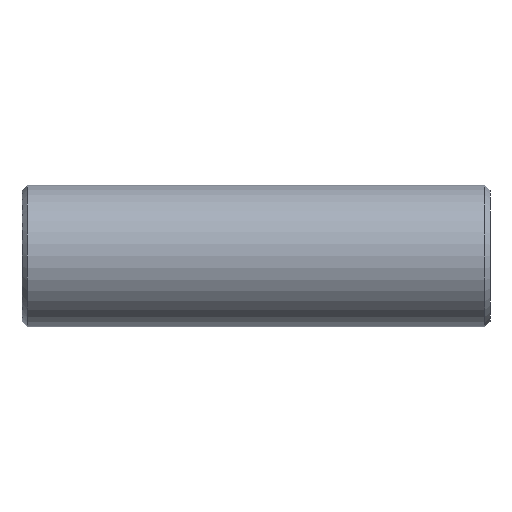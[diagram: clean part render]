
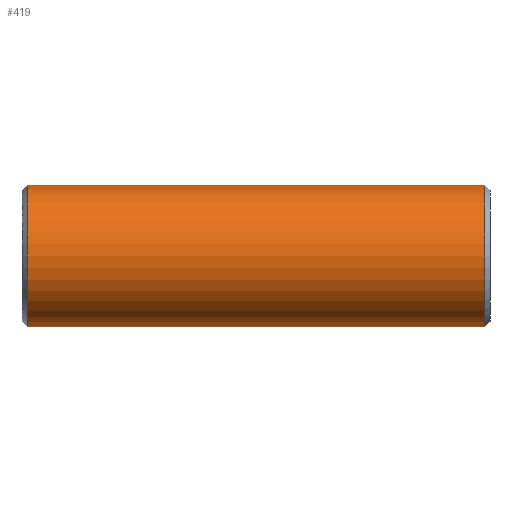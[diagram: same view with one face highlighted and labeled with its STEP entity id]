
A CAD part, front view. The second image highlights one B-rep face of the part: STEP entity #419.
In plain terms, the highlighted cylindrical face has radius 13 mm (diameter 26 mm), a partial arc.
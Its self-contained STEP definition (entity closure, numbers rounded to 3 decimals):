
#231=CARTESIAN_POINT('Vertex',(1.,0.,-13.)) ;
#238=CARTESIAN_POINT('Vertex',(1.,0.,13.)) ;
#267=CARTESIAN_POINT('Axis2P3D Location',(1.,0.,0.)) ;
#271=CARTESIAN_POINT('Vertex',(1.,-13.,0.)) ;
#274=CARTESIAN_POINT('Axis2P3D Location',(1.,0.,0.)) ;
#359=CARTESIAN_POINT('Line Origine',(86.,0.,13.)) ;
#363=CARTESIAN_POINT('Vertex',(85.,0.,13.)) ;
#377=CARTESIAN_POINT('Vertex',(85.,0.,-13.)) ;
#380=CARTESIAN_POINT('Line Origine',(86.,0.,-13.)) ;
#394=CARTESIAN_POINT('Axis2P3D Location',(86.,0.,0.)) ;
#399=CARTESIAN_POINT('Axis2P3D Location',(85.,0.,0.)) ;
#403=CARTESIAN_POINT('Vertex',(85.,-13.,0.)) ;
#406=CARTESIAN_POINT('Axis2P3D Location',(85.,0.,0.)) ;
#268=DIRECTION('Axis2P3D Direction',(1.,0.,-0.)) ;
#275=DIRECTION('Axis2P3D Direction',(1.,0.,-0.)) ;
#360=DIRECTION('Vector Direction',(-1.,0.,0.)) ;
#381=DIRECTION('Vector Direction',(-1.,0.,0.)) ;
#395=DIRECTION('Axis2P3D Direction',(-1.,-0.,-0.)) ;
#396=DIRECTION('Axis2P3D XDirection',(0.,0.,-1.)) ;
#400=DIRECTION('Axis2P3D Direction',(-1.,-0.,-0.)) ;
#407=DIRECTION('Axis2P3D Direction',(-1.,-0.,-0.)) ;
#269=AXIS2_PLACEMENT_3D('Circle Axis2P3D',#267,#268,$) ;
#276=AXIS2_PLACEMENT_3D('Circle Axis2P3D',#274,#275,$) ;
#397=AXIS2_PLACEMENT_3D('Cylinder Axis2P3D',#394,#395,#396) ;
#401=AXIS2_PLACEMENT_3D('Circle Axis2P3D',#399,#400,$) ;
#408=AXIS2_PLACEMENT_3D('Circle Axis2P3D',#406,#407,$) ;
#412=ORIENTED_EDGE('',*,*,#384,.T.) ;
#413=ORIENTED_EDGE('',*,*,#405,.F.) ;
#414=ORIENTED_EDGE('',*,*,#410,.F.) ;
#415=ORIENTED_EDGE('',*,*,#365,.T.) ;
#416=ORIENTED_EDGE('',*,*,#278,.T.) ;
#417=ORIENTED_EDGE('',*,*,#273,.T.) ;
#361=VECTOR('Line Direction',#360,1.) ;
#382=VECTOR('Line Direction',#381,1.) ;
#419=ADVANCED_FACE('352-18X86',(#418),#398,.T.) ;
#270=CIRCLE('generated circle',#269,13.) ;
#277=CIRCLE('generated circle',#276,13.) ;
#402=CIRCLE('generated circle',#401,13.) ;
#409=CIRCLE('generated circle',#408,13.) ;
#398=CYLINDRICAL_SURFACE('generated cylinder',#397,13.) ;
#273=EDGE_CURVE('',#272,#232,#270,.T.) ;
#278=EDGE_CURVE('',#239,#272,#277,.T.) ;
#365=EDGE_CURVE('',#364,#239,#362,.T.) ;
#384=EDGE_CURVE('',#232,#378,#383,.F.) ;
#405=EDGE_CURVE('',#404,#378,#402,.F.) ;
#410=EDGE_CURVE('',#364,#404,#409,.F.) ;
#411=EDGE_LOOP('',(#412,#413,#414,#415,#416,#417)) ;
#418=FACE_OUTER_BOUND('',#411,.T.) ;
#362=LINE('Line',#359,#361) ;
#383=LINE('Line',#380,#382) ;
#232=VERTEX_POINT('',#231) ;
#239=VERTEX_POINT('',#238) ;
#272=VERTEX_POINT('',#271) ;
#364=VERTEX_POINT('',#363) ;
#378=VERTEX_POINT('',#377) ;
#404=VERTEX_POINT('',#403) ;
